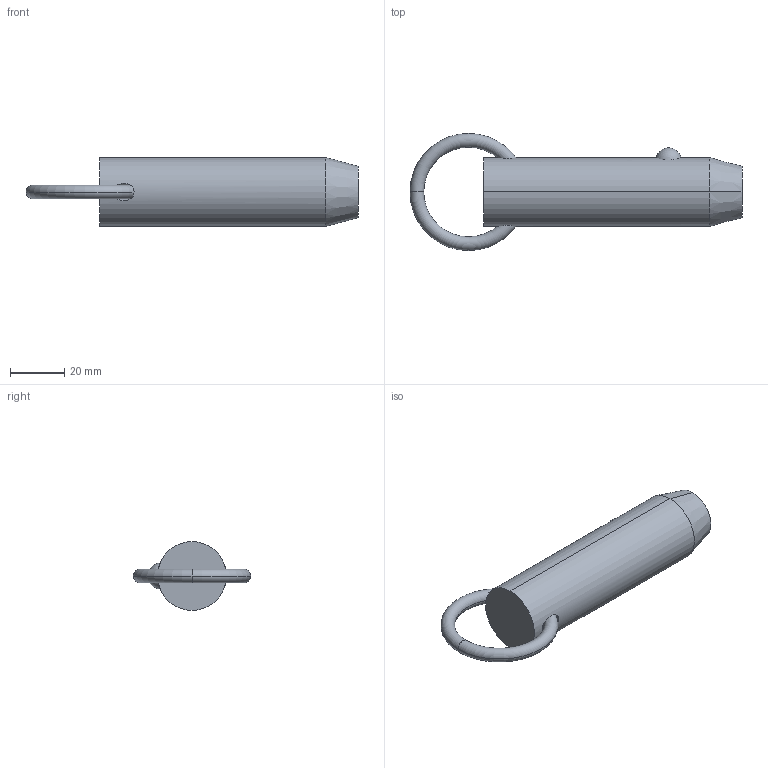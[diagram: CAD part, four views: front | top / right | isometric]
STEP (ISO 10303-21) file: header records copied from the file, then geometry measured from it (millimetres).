
FILE_DESCRIPTION (( 'STEP AP203' ), '1' );
FILE_NAME ('33010.W1020.step', '2024-11-01T10:47:28', ( '' ), ( '' ), 'SwSTEP 2.0', 'SolidWorks 2019', '' );
FILE_SCHEMA (( 'CONFIG_CONTROL_DESIGN' ));
Length unit declared in the file: millimetre
Products named in the file (3): Part1_33010.W1020; 33010.W1020; Part2_33010.W1020
Assembly tree (2 placements, depth 2):
  33010.W1020
    Part1_33010.W1020
    Part2_33010.W1020
Bounding box: 122.38 x 43.18 x 25.4 mm (x, y, z)
Volume: 48599.7 mm3; surface area: 10725.1 mm2
Topology: 2 solids, 2 shells, 18 faces, 37 edges, 22 vertices
Faces by surface type: torus 8, plane 4, sphere 2, cone 2, cylinder 2
Entity records: 975 total; most frequent: CARTESIAN_POINT 280, DIRECTION 100, ORIENTED_EDGE 74, AXIS2_PLACEMENT_3D 48, EDGE_CURVE 37, PERSON_AND_ORGANIZATION 26, CIRCLE 25, VERTEX_POINT 22
